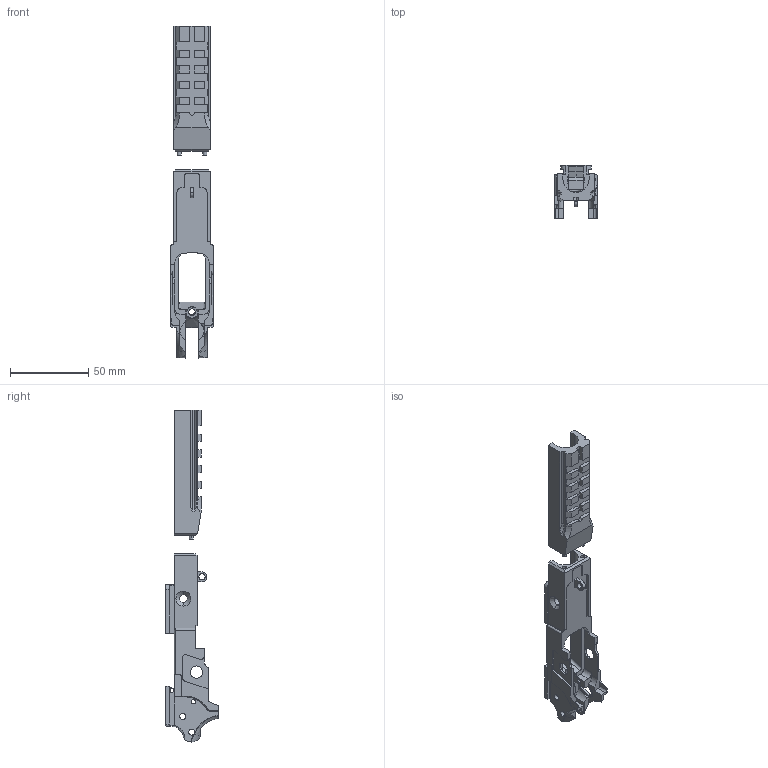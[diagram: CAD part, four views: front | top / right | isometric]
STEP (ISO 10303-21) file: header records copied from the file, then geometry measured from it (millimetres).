
FILE_DESCRIPTION (( 'STEP AP203' ), '1' );
FILE_NAME ('STI.STEP', '2004-02-24T06:03:09', ( ' ' ), ( ' ' ), 'SwSTEP 2.0', 'SolidWorks 2003240', '' );
FILE_SCHEMA (( 'CONFIG_CONTROL_DESIGN' ));
Length unit declared in the file: inch
Products named in the file (3): STI_Frame_Dust Cover2; STI_Frame2; STI
Assembly tree (2 placements, depth 2):
  STI
    STI_Frame_Dust Cover2
    STI_Frame2
Bounding box: 27.03 x 33.91 x 212.76 mm (x, y, z)
Volume: 37896.5 mm3; surface area: 24622.5 mm2
Topology: 2 solids, 2 shells, 376 faces, 1099 edges, 720 vertices
Faces by surface type: plane 220, cylinder 125, cone 21, bspline 10
Entity records: 13908 total; most frequent: CARTESIAN_POINT 3780, ORIENTED_EDGE 2190, DIRECTION 1901, EDGE_CURVE 1095, VECTOR 721, LINE 721, VERTEX_POINT 720, AXIS2_PLACEMENT_3D 590
